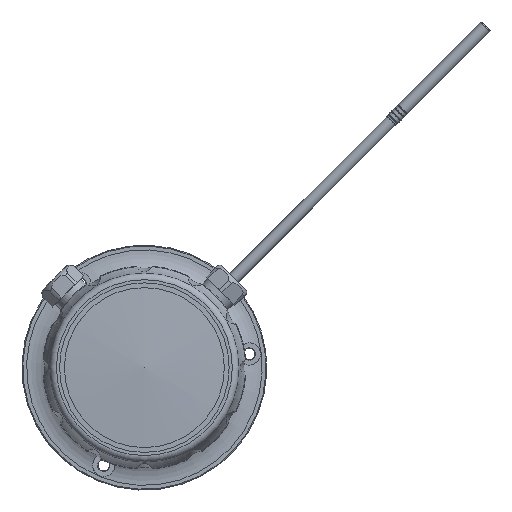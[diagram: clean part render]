
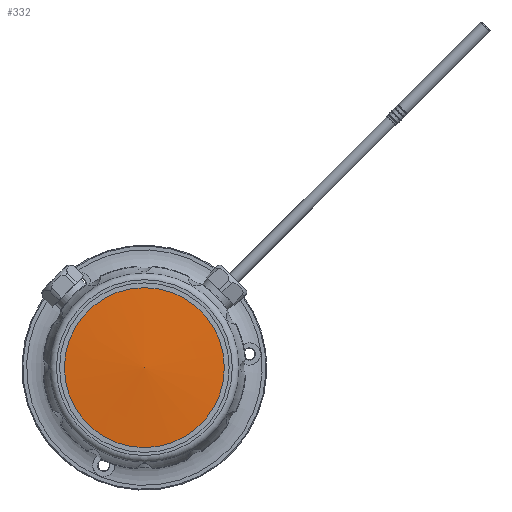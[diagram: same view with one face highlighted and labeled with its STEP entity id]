
A CAD part, left-side view. The second image highlights one B-rep face of the part: STEP entity #332.
In plain terms, the highlighted conical face has half-angle 86.906 degrees and reference radius 18.32 mm.
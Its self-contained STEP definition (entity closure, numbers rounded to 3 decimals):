
#332 = ADVANCED_FACE( '', ( #913, #914 ), #915, .T. );
#913 = FACE_BOUND( '', #1872, .T. );
#914 = FACE_OUTER_BOUND( '', #1873, .T. );
#915 = CONICAL_SURFACE( '', #1874, 18.32, 1.517 );
#1872 = VERTEX_LOOP( '', #3536 );
#1873 = EDGE_LOOP( '', ( #3537 ) );
#1874 = AXIS2_PLACEMENT_3D( '', #3538, #3539, #3540 );
#3536 = VERTEX_POINT( '', #5633 );
#3537 = ORIENTED_EDGE( '', *, *, #5634, .T. );
#3538 = CARTESIAN_POINT( '', ( -52.01, 0., 0. ) );
#3539 = DIRECTION( '', ( 1., 0., 0. ) );
#3540 = DIRECTION( '', ( 0., 0., 1. ) );
#5633 = CARTESIAN_POINT( '', ( -53., 0., 0. ) );
#5634 = EDGE_CURVE( '', #6518, #6518, #6519, .T. );
#6518 = VERTEX_POINT( '', #7992 );
#6519 = CIRCLE( '', #7993, 35.921 );
#7992 = CARTESIAN_POINT( '', ( -51.058, 0., -35.921 ) );
#7993 = AXIS2_PLACEMENT_3D( '', #12210, #12211, #12212 );
#12210 = CARTESIAN_POINT( '', ( -51.058, 0., 0. ) );
#12211 = DIRECTION( '', ( -1., 0., 0. ) );
#12212 = DIRECTION( '', ( 0., 0., -1. ) );
